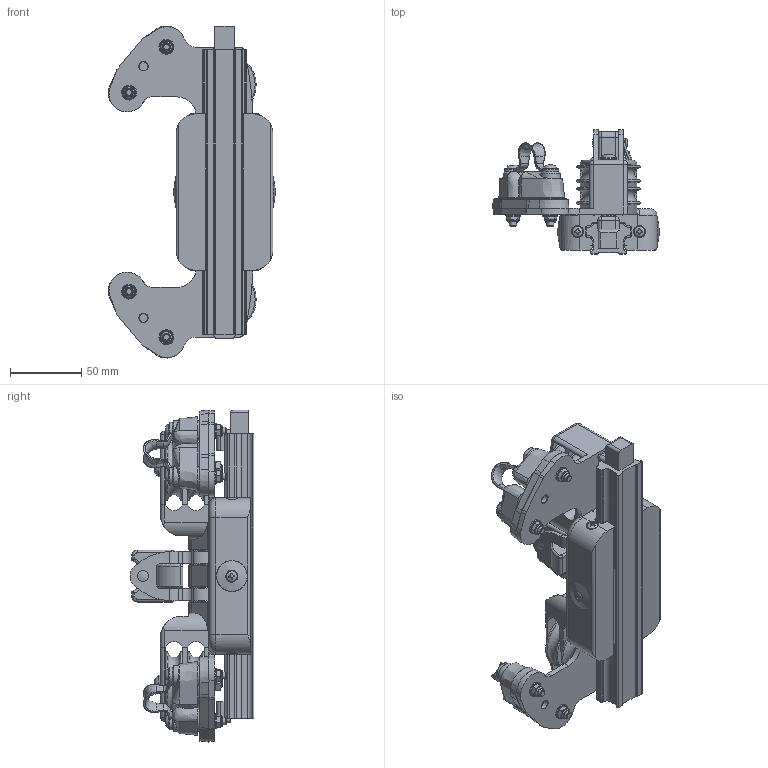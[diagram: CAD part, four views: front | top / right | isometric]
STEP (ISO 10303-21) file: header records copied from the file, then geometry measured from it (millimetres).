
FILE_DESCRIPTION(/* description */ (''),/* implementation_level */ '2;1');
FILE_NAME(/* name */ 'D:\Utenti\lucade\Desktop\4114+4420.stp',/* time_stamp */ '2020-08-06T15:51:03+02:00',/* author */ ('lucade'),/* organization */ (''),/* preprocessor_version */ 'ST-DEVELOPER v18.1',/* originating_system */ 'Autodesk Inventor 2021',/* authorisation */ '');
FILE_SCHEMA (('AUTOMOTIVE_DESIGN { 1 0 10303 214 3 1 1 }'));
Products named in the file (1): 4114+4420
Bounding box: 117.66 x 87.05 x 233.52 mm (x, y, z)
Volume: 539914 mm3; surface area: 136910.7 mm2
Topology: 6 solids, 8 shells, 1436 faces, 3749 edges, 2329 vertices
Faces by surface type: plane 560, cylinder 415, bspline 212, torus 147, cone 78, sphere 24
Full cylindrical faces by diameter (mm): 2.5 x1, 3.5 x1, 3.6 x2, 5 x4, 5.1 x2, 5.2 x4, 6 x7, 6.2 x14, 6.4 x2, 6.8 x2, 7.5 x4, 8 x1, 8.2 x3, 8.4 x4, 8.5 x6, 9.5 x4, 10 x4, 10.5 x16, 11.7 x6, 14 x4, 15 x4, 17 x4, 28 x6
Entity records: 56377 total; most frequent: CARTESIAN_POINT 22218, ORIENTED_EDGE 7406, DIRECTION 6972, EDGE_CURVE 3703, AXIS2_PLACEMENT_3D 2785, VERTEX_POINT 2330, EDGE_LOOP 1571, CIRCLE 1474
